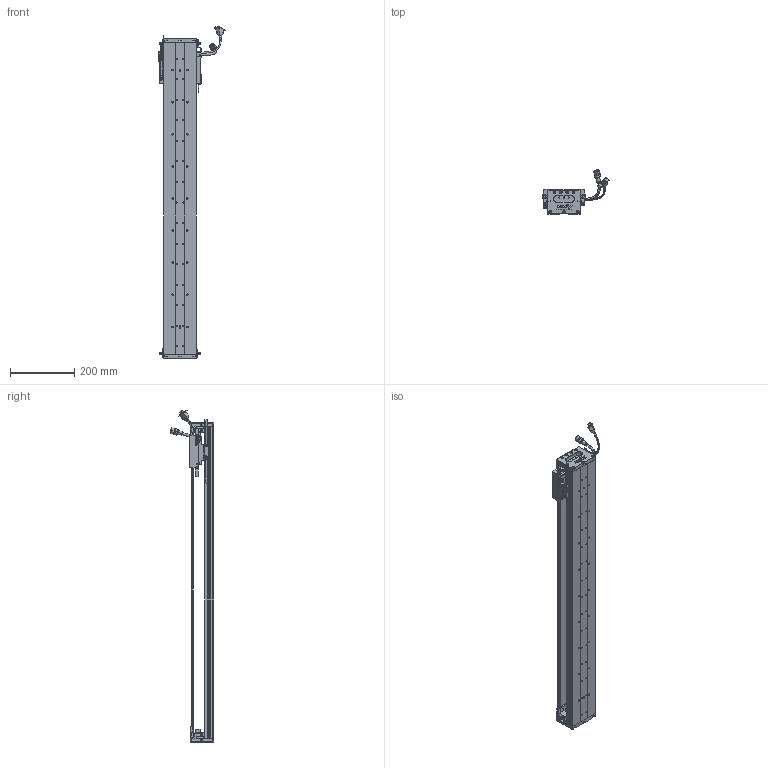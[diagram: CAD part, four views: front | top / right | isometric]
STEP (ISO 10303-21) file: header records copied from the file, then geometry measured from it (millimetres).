
FILE_DESCRIPTION (( 'STEP AP203' ), '1' );
FILE_NAME ('Z1-RY100D-1-L500-B-K.SLDASM_0800.step', '2021-05-17T01:40:43', ( '盈信电脑' ), ( '东莞市道滘镇水果街19号' ), 'SwSTEP 2.0', 'SolidWorks 2016', '' );
FILE_SCHEMA (( 'CONFIG_CONTROL_DESIGN' ));
Length unit declared in the file: millimetre
Products named in the file (36): SCALE-Part-2; 榋妏寠巭燃_暯_M2_2; LABEL; Z-RY100D覜茼んえ; SCREW-M1.6-3; 140雄赽晤鎢ん堤盄; 覜茼ん672; SHIELDPLATE; 140蚥薯蝶輸; SEAL; LABEL-Part-1; SCREW-M1.6-2; Z-RY100D詩湍奻揤裔; 080黍杅芛假蚾釱21遴; Z1-RY100-L500詩湍90mm遵_0800; SCREW-M1.7-1; PSLH080_PSLF2; SCALE-Part-1; SEAL-Part-1; Z1-RY100铝滑块（21款）; PBU_SHEET; COVER; HOLDER0; SCREW-M1.7; SCREW-M1.6-1; COVER-Part-1; HARNESS-Part-2; Z-RY100D詩湍狟揤裔; SCALE; HARNESS; Z1-RY100D-1-L500-B-K.SLDASM_0800; Z1-RY100D-500-倰第菁釱_0800; 100-Z-臏賑輸盄裔(21遴); SCREW-M1.6; HARNESS-Part-1; Z-100詩湍傷裔啣
Assembly tree (44 placements, depth 4):
  Z1-RY100D-1-L500-B-K.SLDASM_0800
    Z1-RY100D-500-倰第菁釱_0800
    Z1-RY100铝滑块（21款）
    PSLH080_PSLF2
      SCALE
        SCALE-Part-1
        SCALE-Part-2
      HARNESS
        HARNESS-Part-1
        HARNESS-Part-2
      LABEL
        LABEL-Part-1
      COVER
        COVER-Part-1
      SEAL
        SEAL-Part-1
      榋妏寠巭燃_暯_M2_2
      SHIELDPLATE
      SCREW-M1.7
      SCREW-M1.7-1
      PBU_SHEET
      SCREW-M1.6
      SCREW-M1.6-1
      SCREW-M1.6-2
      SCREW-M1.6-3
      HOLDER0
    080黍杅芛假蚾釱21遴
    Z-100詩湍傷裔啣  x2
    140蚥薯蝶輸  x2
    覜茼ん672  x4
    Z-RY100D覜茼んえ  x3
    100-Z-臏賑輸盄裔(21遴)
    140雄赽晤鎢ん堤盄
    Z1-RY100-L500詩湍90mm遵_0800
    Z-RY100D詩湍狟揤裔  x2
    Z-RY100D詩湍奻揤裔  x2
Bounding box: 205.84 x 136.11 x 1035.43 mm (x, y, z)
Volume: 2071477.7 mm3; surface area: 815178.7 mm2
Topology: 39 solids, 39 shells, 2562 faces, 6727 edges, 4268 vertices
Faces by surface type: plane 1168, cylinder 1062, cone 210, torus 69, bspline 53
Entity records: 66771 total; most frequent: CARTESIAN_POINT 14157, DIRECTION 10481, ORIENTED_EDGE 9886, EDGE_CURVE 4943, AXIS2_PLACEMENT_3D 3824, VERTEX_POINT 3176, VECTOR 2833, LINE 2833
